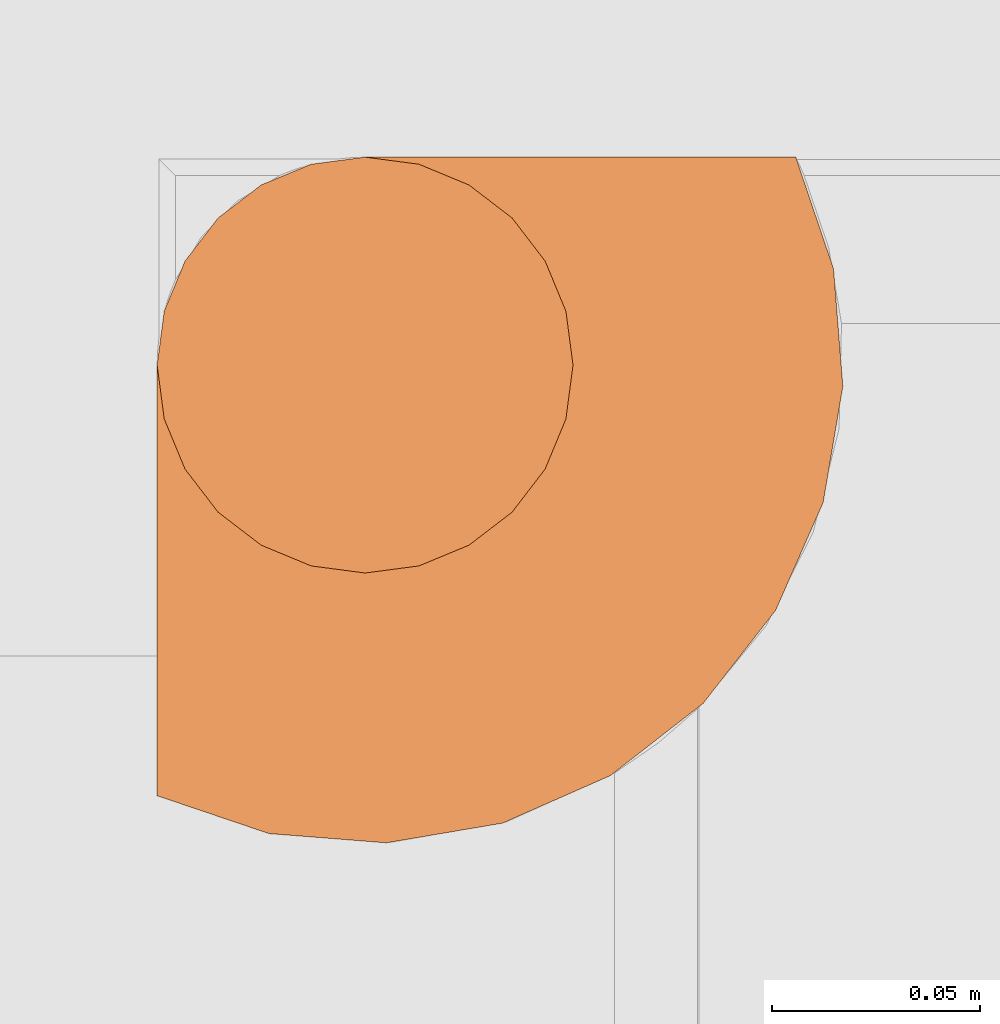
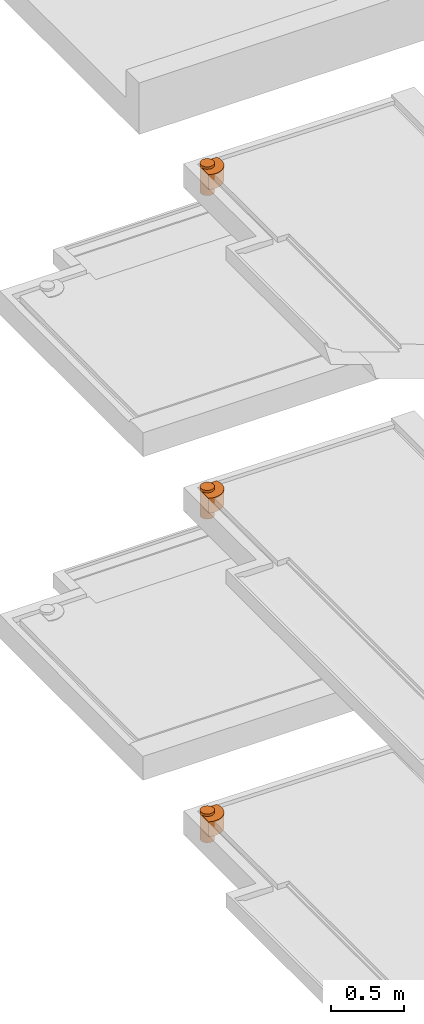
# One storey, part 22 of 31: 3 proxies, 3 elements without a shape of their own.
"""IFC2X3 building model written with IfcOpenShell, lengths in centimetres."""

from ifc_helpers import new_model, entity, si_unit, converted_unit, derived_unit, direction, frame, origin, place, context, subcontext, project, spatial, faceted_brep, source, transform, mapped, material, type_object, type_shapes, element, aggregate, save


model = new_model("IFC2X3")

# Units and contexts
model_context = context("Model", 3, precision=0.001, world=origin(), true_north=direction((6.12303176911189e-17, 1.0)))
body_context = subcontext(model_context, "Body", "Model", "MODEL_VIEW")
ifc_project = project(units=[si_unit("LENGTHUNIT", "METRE", prefix="CENTI"), si_unit("AREAUNIT", "SQUARE_METRE"), si_unit("VOLUMEUNIT", "CUBIC_METRE"), converted_unit("PLANEANGLEUNIT", "DEGREE", entity("IfcRatioMeasure", 0.0174532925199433), si_unit("PLANEANGLEUNIT", "RADIAN"), dimensions=[0, 0, 0, 0, 0, 0, 0]), si_unit("MASSUNIT", "GRAM", prefix="KILO"), derived_unit("MASSDENSITYUNIT", [(si_unit("MASSUNIT", "GRAM", prefix="KILO"), 1), (si_unit("LENGTHUNIT", "METRE"), -3)]), si_unit("TIMEUNIT", "SECOND"), si_unit("FREQUENCYUNIT", "HERTZ"), si_unit("THERMODYNAMICTEMPERATUREUNIT", "DEGREE_CELSIUS"), derived_unit("THERMALTRANSMITTANCEUNIT", [(si_unit("MASSUNIT", "GRAM", prefix="KILO"), 1), (si_unit("THERMODYNAMICTEMPERATUREUNIT", "KELVIN"), -1), (si_unit("TIMEUNIT", "SECOND"), -3)]), derived_unit("VOLUMETRICFLOWRATEUNIT", [(si_unit("LENGTHUNIT", "METRE"), 3), (si_unit("TIMEUNIT", "SECOND"), -1)]), si_unit("ELECTRICCURRENTUNIT", "AMPERE"), si_unit("ELECTRICVOLTAGEUNIT", "VOLT"), si_unit("POWERUNIT", "WATT"), si_unit("FORCEUNIT", "NEWTON"), si_unit("ILLUMINANCEUNIT", "LUX"), si_unit("LUMINOUSFLUXUNIT", "LUMEN"), si_unit("LUMINOUSINTENSITYUNIT", "CANDELA"), derived_unit("USERDEFINED", [(si_unit("MASSUNIT", "GRAM", prefix="KILO"), -1), (si_unit("LENGTHUNIT", "METRE"), -2), (si_unit("TIMEUNIT", "SECOND"), 3), (si_unit("LUMINOUSFLUXUNIT", "LUMEN"), 1)]), derived_unit("LINEARVELOCITYUNIT", [(si_unit("LENGTHUNIT", "METRE"), 1), (si_unit("TIMEUNIT", "SECOND"), -1)]), si_unit("PRESSUREUNIT", "PASCAL"), derived_unit("USERDEFINED", [(si_unit("LENGTHUNIT", "METRE"), -2), (si_unit("MASSUNIT", "GRAM", prefix="KILO"), 1), (si_unit("TIMEUNIT", "SECOND"), -2)])], contexts=[model_context])

# Site, building, storey
site_placement = place(None, origin())
site = spatial("IfcSite", under=ifc_project, at=site_placement, Name="Default", CompositionType="ELEMENT")
building_placement = place(site_placement, origin())
building = spatial("IfcBuilding", under=site, at=building_placement, Name="CAGE 03", CompositionType="ELEMENT")
storey_placement = place(building_placement, frame((0.0, 0.0, -400.0)))
storey = spatial("IfcBuildingStorey", under=building, at=storey_placement, Name="±0.00", CompositionType="ELEMENT", Elevation=-400.0)

# Assembly, proxy
assembly_1_placement = place(storey_placement, origin())
assembly_1 = element("IfcElementAssembly", 1, at=assembly_1_placement, inside=storey, Name="Assemblage Modèles génériques:BALCON TYPE 06", ObjectType="Assemblage Modèles génériques:BALCON TYPE 06", AssemblyPlace="NOTDEFINED", PredefinedType="USERDEFINED")
ifc_material = material(Name="BBGO_Résa")
building_element_proxy_type_1 = type_object("IfcBuildingElementProxyType", Name="Siphon de balcon", PredefinedType="NOTDEFINED", material=ifc_material)
shared_shape_1 = source(origin(), body_context, "Body", "Brep", [
    faceted_brep([(10.3541591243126, 16.4778834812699, 9.69999999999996), (10.3541591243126, 16.4778834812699, 0.0), (9.14825434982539, 15.9783813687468, 0.0), (9.14825434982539, 15.9783813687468, 9.69999999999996), (10.3541591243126, 16.4778834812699, 22.0), (9.14825434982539, 15.9783813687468, 22.0), (9.14825434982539, 15.9783813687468, 24.0), (10.3541591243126, 16.4778834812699, 24.0), (8.11272044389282, 15.1837882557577, 0.0), (8.11272044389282, 15.1837882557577, 9.69999999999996), (8.11272044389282, 15.1837882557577, 22.0), (8.11272044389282, 15.1837882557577, 24.0), (7.31812733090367, 14.1482543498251, 9.69999999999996), (7.31812733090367, 14.1482543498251, 0.0), (6.81862521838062, 12.9423495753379, 0.0), (6.81862521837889, 12.942349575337, 9.69999999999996), (7.31812733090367, 14.1482543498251, 22.0), (6.81862521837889, 12.942349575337, 22.0), (6.81862521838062, 12.9423495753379, 24.0), (7.31812733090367, 14.1482543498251, 24.0), (6.64825434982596, 11.6482543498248, 0.0), (6.64825434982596, 11.6482543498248, 9.69999999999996), (6.64825434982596, 11.6482543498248, 24.0), (6.64825434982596, 11.6482543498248, 22.0), (11.6482543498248, 16.6482543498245, 9.69999999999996), (11.6482543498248, 16.6482543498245, 0.0), (11.6482543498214, 16.6482543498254, 22.0), (11.6482543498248, 16.6482543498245, 24.0), (6.81862521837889, 10.3541591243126, 9.69999999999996), (6.81862521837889, 10.3541591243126, 0.0), (7.31812733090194, 9.14825434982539, 0.0), (7.31812733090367, 9.14825434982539, 9.69999999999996), (6.81862521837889, 10.3541591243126, 22.0), (7.31812733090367, 9.14825434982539, 22.0), (7.31812733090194, 9.14825434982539, 24.0), (6.81862521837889, 10.3541591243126, 24.0), (8.11272044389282, 8.11272044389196, 0.0), (8.11272044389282, 8.11272044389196, 9.69999999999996), (8.11272044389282, 8.11272044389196, 22.0), (8.11272044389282, 8.11272044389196, 24.0), (9.14825434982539, 7.31812733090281, 9.69999999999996), (9.14825434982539, 7.31812733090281, 0.0), (10.3541591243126, 6.81862521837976, 0.0), (10.3541591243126, 6.81862521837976, 9.69999999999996), (9.14825434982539, 7.31812733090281, 22.0), (10.3541591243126, 6.81862521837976, 22.0), (10.3541591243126, 6.81862521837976, 24.0), (9.14825434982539, 7.31812733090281, 24.0), (11.6482543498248, 6.64825434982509, 0.0), (11.6482543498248, 6.64825434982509, 9.69999999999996), (11.6482543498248, 6.64825434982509, 22.0), (11.6482543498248, 6.64825434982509, 24.0), (16.4778834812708, 10.3541591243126, 22.0), (15.978381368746, 9.14825434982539, 22.0), (15.1837882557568, 8.11272044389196, 22.0), (14.1482543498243, 7.31812733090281, 22.0), (12.942349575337, 6.81862521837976, 22.0), (1.29209676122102, 16.6482543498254, 22.0), (0.383832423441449, 13.964026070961, 22.0), (0.15952722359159, 11.1391875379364, 22.0), (0.632800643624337, 8.34525879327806, 22.0), (1.77491621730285, 5.75188308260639, 22.0), (3.51652636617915, 3.51652636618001, 22.0), (5.75188308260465, 1.77491621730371, 22.0), (8.34525879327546, 0.632800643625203, 22.0), (11.1391875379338, 0.159527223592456, 22.0), (13.9640260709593, 0.383832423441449, 22.0), (16.6482543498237, 1.29209676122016, 22.0), (16.6482543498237, 11.6482543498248, 22.0), (12.942349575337, 6.81862521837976, 9.69999999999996), (14.1482543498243, 7.31812733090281, 9.69999999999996), (15.1837882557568, 8.11272044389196, 9.69999999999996), (15.978381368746, 9.14825434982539, 9.69999999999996), (16.4778834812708, 10.3541591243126, 9.69999999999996), (16.6482543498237, 11.6482543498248, 9.69999999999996), (16.6482543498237, 1.29209676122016, 9.69999999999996), (13.9640260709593, 0.383832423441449, 9.69999999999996), (11.1391875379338, 0.159527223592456, 9.69999999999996), (8.34525879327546, 0.632800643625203, 9.69999999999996), (5.75188308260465, 1.77491621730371, 9.69999999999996), (3.51652636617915, 3.51652636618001, 9.69999999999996), (1.77491621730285, 5.75188308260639, 9.69999999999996), (0.632800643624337, 8.34525879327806, 9.69999999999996), (0.15952722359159, 11.1391875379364, 9.69999999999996), (0.383832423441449, 13.964026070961, 9.69999999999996), (1.29209676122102, 16.6482543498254, 9.69999999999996), (1.29209676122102, 16.6482543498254, 21.5299497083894), (16.6482543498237, 1.29209676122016, 21.3763717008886), (12.942349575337, 6.81862521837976, 24.0), (14.1482543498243, 7.31812733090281, 24.0), (15.1837882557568, 8.11272044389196, 24.0), (15.978381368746, 9.14825434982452, 24.0), (16.477883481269, 10.3541591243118, 24.0), (16.6482543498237, 11.6482543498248, 24.0), (16.4778834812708, 12.942349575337, 24.0), (15.9783813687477, 14.1482543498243, 24.0), (15.1837882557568, 15.1837882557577, 24.0), (14.1482543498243, 15.9783813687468, 24.0), (12.942349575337, 16.4778834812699, 24.0), (14.1482543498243, 7.31812733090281, 0.0), (12.942349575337, 6.81862521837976, 0.0), (12.942349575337, 16.4778834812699, 0.0), (14.1482543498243, 15.9783813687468, 0.0), (15.1837882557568, 15.1837882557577, 0.0), (15.9783813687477, 14.1482543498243, 0.0), (16.4778834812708, 12.942349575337, 0.0), (16.6482543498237, 11.6482543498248, 0.0), (16.477883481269, 10.3541591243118, 0.0), (15.978381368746, 9.14825434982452, 0.0), (15.1837882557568, 8.11272044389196, 0.0)], [[[0, 1, 2, 3]], [[4, 5, 6, 7]], [[8, 9, 3, 2]], [[5, 10, 11, 6]], [[12, 13, 14, 15]], [[16, 17, 18, 19]], [[8, 13, 12, 9]], [[10, 16, 19, 11]], [[15, 14, 20, 21]], [[22, 18, 17, 23]], [[1, 0, 24, 25]], [[26, 4, 7, 27]], [[28, 29, 30, 31]], [[32, 33, 34, 35]], [[36, 37, 31, 30]], [[33, 38, 39, 34]], [[40, 41, 42, 43]], [[44, 45, 46, 47]], [[36, 41, 40, 37]], [[38, 44, 47, 39]], [[43, 42, 48, 49]], [[45, 50, 51, 46]], [[29, 28, 21, 20]], [[32, 35, 22, 23]], [[52, 53, 54, 55, 56, 50, 45, 44, 38, 33, 32, 23, 17, 16, 10, 5, 4, 26, 57, 58, 59, 60, 61, 62, 63, 64, 65, 66, 67, 68]], [[21, 28, 31, 37, 40, 43, 49, 69, 70, 71, 72, 73, 74, 75, 76, 77, 78, 79, 80, 81, 82, 83, 84, 85, 24, 0, 3, 9, 12, 15]], [[57, 26, 24, 85, 86]], [[86, 85, 84, 58, 57]], [[83, 59, 58, 84]], [[60, 82, 81, 61]], [[83, 82, 60, 59]], [[61, 81, 80, 62]], [[78, 64, 63, 79]], [[77, 65, 64, 78]], [[76, 75, 87, 67, 66]], [[77, 76, 66, 65]], [[79, 63, 62, 80]], [[68, 67, 87, 75, 74]], [[22, 35, 34, 39, 47, 46, 51, 88, 89, 90, 91, 92, 93, 94, 95, 96, 97, 98, 27, 7, 6, 11, 19, 18]], [[99, 100, 48, 42, 41, 36, 30, 29, 20, 14, 13, 8, 2, 1, 25, 101, 102, 103, 104, 105, 106, 107, 108, 109]], [[48, 100, 69, 49]], [[51, 50, 56, 88]], [[99, 70, 69, 100]], [[56, 55, 89, 88]], [[109, 108, 72, 71]], [[54, 53, 91, 90]], [[109, 71, 70, 99]], [[54, 90, 89, 55]], [[108, 107, 73, 72]], [[91, 53, 52, 92]], [[74, 106, 105, 94, 93, 68]], [[107, 106, 74, 73]], [[52, 68, 93, 92]], [[94, 105, 104, 95]], [[101, 25, 24, 26, 27, 98]], [[96, 103, 102, 97]], [[101, 98, 97, 102]], [[95, 104, 103, 96]]]),
])
type_shapes(building_element_proxy_type_1, [shared_shape_1])
proxy_1_placement = place(assembly_1_placement, frame((4703.01407449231, 4049.51241172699, 988.0), z_axis=(0.0, 0.0, 1.0), x_axis=(0.0, 1.0, 0.0)))
proxy_1 = element("IfcBuildingElementProxy", 2, at=proxy_1_placement, type_object=building_element_proxy_type_1, material=ifc_material, Name="Siphon de balcon20:Siphon de balcon", ObjectType="Siphon de balcon", context=body_context, shape_type="MappedRepresentation", body=[
    mapped(shared_shape_1, transform((0.0, 0.0, 0.0), scale=1.0)),
])
aggregate(assembly_1, [proxy_1])

assembly_2_placement = place(storey_placement, origin())
assembly_2 = element("IfcElementAssembly", 3, at=assembly_2_placement, inside=storey, Name="Assemblage Modèles génériques:BALCON TYPE 06", ObjectType="Assemblage Modèles génériques:BALCON TYPE 06", AssemblyPlace="NOTDEFINED", PredefinedType="USERDEFINED")
building_element_proxy_type_2 = type_object("IfcBuildingElementProxyType", Name="Siphon de balcon", PredefinedType="NOTDEFINED", material=ifc_material)
shared_shape_2 = source(origin(), body_context, "Body", "Brep", [
    faceted_brep([(10.3541591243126, 16.4778834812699, 9.69999999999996), (10.3541591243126, 16.4778834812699, 0.0), (9.14825434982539, 15.9783813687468, 0.0), (9.14825434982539, 15.9783813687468, 9.69999999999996), (10.3541591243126, 16.4778834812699, 22.0), (9.14825434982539, 15.9783813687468, 22.0), (9.14825434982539, 15.9783813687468, 24.0), (10.3541591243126, 16.4778834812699, 24.0), (8.11272044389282, 15.1837882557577, 0.0), (8.11272044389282, 15.1837882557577, 9.69999999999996), (8.11272044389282, 15.1837882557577, 22.0), (8.11272044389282, 15.1837882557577, 24.0), (7.31812733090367, 14.1482543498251, 9.69999999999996), (7.31812733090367, 14.1482543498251, 0.0), (6.81862521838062, 12.9423495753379, 0.0), (6.81862521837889, 12.942349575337, 9.69999999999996), (7.31812733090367, 14.1482543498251, 22.0), (6.81862521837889, 12.942349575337, 22.0), (6.81862521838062, 12.9423495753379, 24.0), (7.31812733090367, 14.1482543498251, 24.0), (6.64825434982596, 11.6482543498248, 0.0), (6.64825434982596, 11.6482543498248, 9.69999999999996), (6.64825434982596, 11.6482543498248, 24.0), (6.64825434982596, 11.6482543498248, 22.0), (11.6482543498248, 16.6482543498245, 9.69999999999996), (11.6482543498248, 16.6482543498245, 0.0), (11.6482543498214, 16.6482543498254, 22.0), (11.6482543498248, 16.6482543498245, 24.0), (6.81862521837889, 10.3541591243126, 9.69999999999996), (6.81862521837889, 10.3541591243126, 0.0), (7.31812733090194, 9.14825434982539, 0.0), (7.31812733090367, 9.14825434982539, 9.69999999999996), (6.81862521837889, 10.3541591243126, 22.0), (7.31812733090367, 9.14825434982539, 22.0), (7.31812733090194, 9.14825434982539, 24.0), (6.81862521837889, 10.3541591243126, 24.0), (8.11272044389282, 8.11272044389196, 0.0), (8.11272044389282, 8.11272044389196, 9.69999999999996), (8.11272044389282, 8.11272044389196, 22.0), (8.11272044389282, 8.11272044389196, 24.0), (9.14825434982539, 7.31812733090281, 9.69999999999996), (9.14825434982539, 7.31812733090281, 0.0), (10.3541591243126, 6.81862521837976, 0.0), (10.3541591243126, 6.81862521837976, 9.69999999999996), (9.14825434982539, 7.31812733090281, 22.0), (10.3541591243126, 6.81862521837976, 22.0), (10.3541591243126, 6.81862521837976, 24.0), (9.14825434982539, 7.31812733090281, 24.0), (11.6482543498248, 6.64825434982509, 0.0), (11.6482543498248, 6.64825434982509, 9.69999999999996), (11.6482543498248, 6.64825434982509, 22.0), (11.6482543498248, 6.64825434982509, 24.0), (16.4778834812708, 10.3541591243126, 22.0), (15.978381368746, 9.14825434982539, 22.0), (15.1837882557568, 8.11272044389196, 22.0), (14.1482543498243, 7.31812733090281, 22.0), (12.942349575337, 6.81862521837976, 22.0), (1.29209676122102, 16.6482543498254, 22.0), (0.383832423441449, 13.964026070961, 22.0), (0.15952722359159, 11.1391875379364, 22.0), (0.632800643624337, 8.34525879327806, 22.0), (1.77491621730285, 5.75188308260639, 22.0), (3.51652636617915, 3.51652636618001, 22.0), (5.75188308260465, 1.77491621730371, 22.0), (8.34525879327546, 0.632800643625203, 22.0), (11.1391875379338, 0.159527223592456, 22.0), (13.9640260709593, 0.383832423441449, 22.0), (16.6482543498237, 1.29209676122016, 22.0), (16.6482543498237, 11.6482543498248, 22.0), (12.942349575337, 6.81862521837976, 9.69999999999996), (14.1482543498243, 7.31812733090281, 9.69999999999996), (15.1837882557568, 8.11272044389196, 9.69999999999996), (15.978381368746, 9.14825434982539, 9.69999999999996), (16.4778834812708, 10.3541591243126, 9.69999999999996), (16.6482543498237, 11.6482543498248, 9.69999999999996), (16.6482543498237, 1.29209676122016, 9.69999999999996), (13.9640260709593, 0.383832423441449, 9.69999999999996), (11.1391875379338, 0.159527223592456, 9.69999999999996), (8.34525879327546, 0.632800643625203, 9.69999999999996), (5.75188308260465, 1.77491621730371, 9.69999999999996), (3.51652636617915, 3.51652636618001, 9.69999999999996), (1.77491621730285, 5.75188308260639, 9.69999999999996), (0.632800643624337, 8.34525879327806, 9.69999999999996), (0.15952722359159, 11.1391875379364, 9.69999999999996), (0.383832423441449, 13.964026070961, 9.69999999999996), (1.29209676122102, 16.6482543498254, 9.69999999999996), (1.29209676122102, 16.6482543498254, 21.5299497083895), (16.6482543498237, 1.29209676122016, 21.3763717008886), (12.942349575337, 6.81862521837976, 24.0), (14.1482543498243, 7.31812733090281, 24.0), (15.1837882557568, 8.11272044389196, 24.0), (15.978381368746, 9.14825434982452, 24.0), (16.477883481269, 10.3541591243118, 24.0), (16.6482543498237, 11.6482543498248, 24.0), (16.4778834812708, 12.942349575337, 24.0), (15.9783813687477, 14.1482543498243, 24.0), (15.1837882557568, 15.1837882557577, 24.0), (14.1482543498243, 15.9783813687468, 24.0), (12.942349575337, 16.4778834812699, 24.0), (14.1482543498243, 7.31812733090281, 0.0), (12.942349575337, 6.81862521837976, 0.0), (12.942349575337, 16.4778834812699, 0.0), (14.1482543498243, 15.9783813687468, 0.0), (15.1837882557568, 15.1837882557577, 0.0), (15.9783813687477, 14.1482543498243, 0.0), (16.4778834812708, 12.942349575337, 0.0), (16.6482543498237, 11.6482543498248, 0.0), (16.477883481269, 10.3541591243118, 0.0), (15.978381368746, 9.14825434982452, 0.0), (15.1837882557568, 8.11272044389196, 0.0)], [[[0, 1, 2, 3]], [[4, 5, 6, 7]], [[8, 9, 3, 2]], [[5, 10, 11, 6]], [[12, 13, 14, 15]], [[16, 17, 18, 19]], [[8, 13, 12, 9]], [[10, 16, 19, 11]], [[15, 14, 20, 21]], [[22, 18, 17, 23]], [[1, 0, 24, 25]], [[26, 4, 7, 27]], [[28, 29, 30, 31]], [[32, 33, 34, 35]], [[36, 37, 31, 30]], [[33, 38, 39, 34]], [[40, 41, 42, 43]], [[44, 45, 46, 47]], [[36, 41, 40, 37]], [[38, 44, 47, 39]], [[43, 42, 48, 49]], [[45, 50, 51, 46]], [[29, 28, 21, 20]], [[32, 35, 22, 23]], [[52, 53, 54, 55, 56, 50, 45, 44, 38, 33, 32, 23, 17, 16, 10, 5, 4, 26, 57, 58, 59, 60, 61, 62, 63, 64, 65, 66, 67, 68]], [[21, 28, 31, 37, 40, 43, 49, 69, 70, 71, 72, 73, 74, 75, 76, 77, 78, 79, 80, 81, 82, 83, 84, 85, 24, 0, 3, 9, 12, 15]], [[57, 26, 24, 85, 86]], [[86, 85, 84, 58, 57]], [[83, 59, 58, 84]], [[60, 82, 81, 61]], [[83, 82, 60, 59]], [[61, 81, 80, 62]], [[78, 64, 63, 79]], [[77, 65, 64, 78]], [[76, 75, 87, 67, 66]], [[77, 76, 66, 65]], [[79, 63, 62, 80]], [[68, 67, 87, 75, 74]], [[22, 35, 34, 39, 47, 46, 51, 88, 89, 90, 91, 92, 93, 94, 95, 96, 97, 98, 27, 7, 6, 11, 19, 18]], [[99, 100, 48, 42, 41, 36, 30, 29, 20, 14, 13, 8, 2, 1, 25, 101, 102, 103, 104, 105, 106, 107, 108, 109]], [[48, 100, 69, 49]], [[51, 50, 56, 88]], [[99, 70, 69, 100]], [[56, 55, 89, 88]], [[109, 108, 72, 71]], [[54, 53, 91, 90]], [[109, 71, 70, 99]], [[54, 90, 89, 55]], [[108, 107, 73, 72]], [[91, 53, 52, 92]], [[74, 106, 105, 94, 93, 68]], [[107, 106, 74, 73]], [[52, 68, 93, 92]], [[94, 105, 104, 95]], [[101, 25, 24, 26, 27, 98]], [[96, 103, 102, 97]], [[101, 98, 97, 102]], [[95, 104, 103, 96]]]),
])
type_shapes(building_element_proxy_type_2, [shared_shape_2])
proxy_2_placement = place(assembly_2_placement, frame((4703.01407449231, 4049.51241172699, 1258.0), z_axis=(0.0, 0.0, 1.0), x_axis=(0.0, 1.0, 0.0)))
proxy_2 = element("IfcBuildingElementProxy", 4, at=proxy_2_placement, type_object=building_element_proxy_type_2, material=ifc_material, Name="Siphon de balcon21:Siphon de balcon", ObjectType="Siphon de balcon", context=body_context, shape_type="MappedRepresentation", body=[
    mapped(shared_shape_2, transform((0.0, 0.0, 0.0), scale=1.0)),
])
aggregate(assembly_2, [proxy_2])

assembly_3_placement = place(storey_placement, origin())
assembly_3 = element("IfcElementAssembly", 5, at=assembly_3_placement, inside=storey, Name="Assemblage Modèles génériques:BALCON TYPE 06", ObjectType="Assemblage Modèles génériques:BALCON TYPE 06", AssemblyPlace="NOTDEFINED", PredefinedType="USERDEFINED")
building_element_proxy_type_3 = type_object("IfcBuildingElementProxyType", Name="Siphon de balcon", PredefinedType="NOTDEFINED", material=ifc_material)
shared_shape_3 = source(origin(), body_context, "Body", "Brep", [
    faceted_brep([(10.3541591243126, 16.4778834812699, 9.69999999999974), (10.3541591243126, 16.4778834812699, 0.0), (9.14825434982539, 15.9783813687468, 0.0), (9.14825434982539, 15.9783813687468, 9.69999999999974), (10.3541591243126, 16.4778834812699, 22.0), (9.14825434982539, 15.9783813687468, 22.0), (9.14825434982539, 15.9783813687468, 24.0), (10.3541591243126, 16.4778834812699, 24.0), (8.11272044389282, 15.1837882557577, 0.0), (8.11272044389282, 15.1837882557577, 9.69999999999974), (8.11272044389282, 15.1837882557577, 22.0), (8.11272044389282, 15.1837882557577, 24.0), (7.31812733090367, 14.1482543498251, 9.69999999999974), (7.31812733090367, 14.1482543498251, 0.0), (6.81862521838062, 12.9423495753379, 0.0), (6.81862521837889, 12.942349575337, 9.69999999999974), (7.31812733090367, 14.1482543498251, 22.0), (6.81862521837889, 12.942349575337, 22.0), (6.81862521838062, 12.9423495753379, 24.0), (7.31812733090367, 14.1482543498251, 24.0), (6.64825434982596, 11.6482543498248, 0.0), (6.64825434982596, 11.6482543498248, 9.69999999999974), (6.64825434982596, 11.6482543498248, 24.0), (6.64825434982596, 11.6482543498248, 22.0), (11.6482543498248, 16.6482543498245, 9.69999999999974), (11.6482543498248, 16.6482543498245, 0.0), (11.6482543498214, 16.6482543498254, 22.0), (11.6482543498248, 16.6482543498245, 24.0), (6.81862521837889, 10.3541591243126, 9.69999999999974), (6.81862521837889, 10.3541591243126, 0.0), (7.31812733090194, 9.14825434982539, 0.0), (7.31812733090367, 9.14825434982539, 9.69999999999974), (6.81862521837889, 10.3541591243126, 22.0), (7.31812733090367, 9.14825434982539, 22.0), (7.31812733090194, 9.14825434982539, 24.0), (6.81862521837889, 10.3541591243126, 24.0), (8.11272044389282, 8.11272044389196, 0.0), (8.11272044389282, 8.11272044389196, 9.69999999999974), (8.11272044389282, 8.11272044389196, 22.0), (8.11272044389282, 8.11272044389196, 24.0), (9.14825434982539, 7.31812733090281, 9.69999999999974), (9.14825434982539, 7.31812733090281, 0.0), (10.3541591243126, 6.81862521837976, 0.0), (10.3541591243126, 6.81862521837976, 9.69999999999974), (9.14825434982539, 7.31812733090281, 22.0), (10.3541591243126, 6.81862521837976, 22.0), (10.3541591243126, 6.81862521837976, 24.0), (9.14825434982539, 7.31812733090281, 24.0), (11.6482543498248, 6.64825434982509, 0.0), (11.6482543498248, 6.64825434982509, 9.69999999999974), (11.6482543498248, 6.64825434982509, 22.0), (11.6482543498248, 6.64825434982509, 24.0), (16.4778834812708, 10.3541591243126, 22.0), (15.978381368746, 9.14825434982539, 22.0), (15.1837882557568, 8.11272044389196, 22.0), (14.1482543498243, 7.31812733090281, 22.0), (12.942349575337, 6.81862521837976, 22.0), (1.29209676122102, 16.6482543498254, 22.0), (0.383832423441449, 13.964026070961, 22.0), (0.15952722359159, 11.1391875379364, 22.0), (0.632800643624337, 8.34525879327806, 22.0), (1.77491621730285, 5.75188308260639, 22.0), (3.51652636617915, 3.51652636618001, 22.0), (5.75188308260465, 1.77491621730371, 22.0), (8.34525879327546, 0.632800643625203, 22.0), (11.1391875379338, 0.159527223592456, 22.0), (13.9640260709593, 0.383832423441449, 22.0), (16.6482543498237, 1.29209676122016, 22.0), (16.6482543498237, 11.6482543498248, 22.0), (12.942349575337, 6.81862521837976, 9.69999999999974), (14.1482543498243, 7.31812733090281, 9.69999999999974), (15.1837882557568, 8.11272044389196, 9.69999999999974), (15.978381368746, 9.14825434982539, 9.69999999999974), (16.4778834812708, 10.3541591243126, 9.69999999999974), (16.6482543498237, 11.6482543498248, 9.69999999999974), (16.6482543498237, 1.29209676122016, 9.69999999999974), (13.9640260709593, 0.383832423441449, 9.69999999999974), (11.1391875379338, 0.159527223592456, 9.69999999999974), (8.34525879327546, 0.632800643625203, 9.69999999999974), (5.75188308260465, 1.77491621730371, 9.69999999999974), (3.51652636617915, 3.51652636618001, 9.69999999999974), (1.77491621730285, 5.75188308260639, 9.69999999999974), (0.632800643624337, 8.34525879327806, 9.69999999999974), (0.15952722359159, 11.1391875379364, 9.69999999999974), (0.383832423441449, 13.964026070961, 9.69999999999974), (1.29209676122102, 16.6482543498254, 9.69999999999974), (1.29209676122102, 16.6482543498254, 21.5299497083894), (16.6482543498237, 1.29209676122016, 21.3763717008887), (12.942349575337, 6.81862521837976, 24.0), (14.1482543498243, 7.31812733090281, 24.0), (15.1837882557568, 8.11272044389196, 24.0), (15.978381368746, 9.14825434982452, 24.0), (16.477883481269, 10.3541591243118, 24.0), (16.6482543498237, 11.6482543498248, 24.0), (16.4778834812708, 12.942349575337, 24.0), (15.9783813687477, 14.1482543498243, 24.0), (15.1837882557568, 15.1837882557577, 24.0), (14.1482543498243, 15.9783813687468, 24.0), (12.942349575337, 16.4778834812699, 24.0), (14.1482543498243, 7.31812733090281, 0.0), (12.942349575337, 6.81862521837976, 0.0), (12.942349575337, 16.4778834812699, 0.0), (14.1482543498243, 15.9783813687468, 0.0), (15.1837882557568, 15.1837882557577, 0.0), (15.9783813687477, 14.1482543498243, 0.0), (16.4778834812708, 12.942349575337, 0.0), (16.6482543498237, 11.6482543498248, 0.0), (16.477883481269, 10.3541591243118, 0.0), (15.978381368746, 9.14825434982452, 0.0), (15.1837882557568, 8.11272044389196, 0.0)], [[[0, 1, 2, 3]], [[4, 5, 6, 7]], [[8, 9, 3, 2]], [[5, 10, 11, 6]], [[12, 13, 14, 15]], [[16, 17, 18, 19]], [[8, 13, 12, 9]], [[10, 16, 19, 11]], [[15, 14, 20, 21]], [[22, 18, 17, 23]], [[1, 0, 24, 25]], [[26, 4, 7, 27]], [[28, 29, 30, 31]], [[32, 33, 34, 35]], [[36, 37, 31, 30]], [[33, 38, 39, 34]], [[40, 41, 42, 43]], [[44, 45, 46, 47]], [[36, 41, 40, 37]], [[38, 44, 47, 39]], [[43, 42, 48, 49]], [[45, 50, 51, 46]], [[29, 28, 21, 20]], [[32, 35, 22, 23]], [[52, 53, 54, 55, 56, 50, 45, 44, 38, 33, 32, 23, 17, 16, 10, 5, 4, 26, 57, 58, 59, 60, 61, 62, 63, 64, 65, 66, 67, 68]], [[21, 28, 31, 37, 40, 43, 49, 69, 70, 71, 72, 73, 74, 75, 76, 77, 78, 79, 80, 81, 82, 83, 84, 85, 24, 0, 3, 9, 12, 15]], [[57, 26, 24, 85, 86]], [[86, 85, 84, 58, 57]], [[83, 59, 58, 84]], [[60, 82, 81, 61]], [[83, 82, 60, 59]], [[61, 81, 80, 62]], [[78, 64, 63, 79]], [[77, 65, 64, 78]], [[76, 75, 87, 67, 66]], [[77, 76, 66, 65]], [[79, 63, 62, 80]], [[68, 67, 87, 75, 74]], [[22, 35, 34, 39, 47, 46, 51, 88, 89, 90, 91, 92, 93, 94, 95, 96, 97, 98, 27, 7, 6, 11, 19, 18]], [[99, 100, 48, 42, 41, 36, 30, 29, 20, 14, 13, 8, 2, 1, 25, 101, 102, 103, 104, 105, 106, 107, 108, 109]], [[48, 100, 69, 49]], [[51, 50, 56, 88]], [[99, 70, 69, 100]], [[56, 55, 89, 88]], [[109, 108, 72, 71]], [[54, 53, 91, 90]], [[109, 71, 70, 99]], [[54, 90, 89, 55]], [[108, 107, 73, 72]], [[91, 53, 52, 92]], [[74, 106, 105, 94, 93, 68]], [[107, 106, 74, 73]], [[52, 68, 93, 92]], [[94, 105, 104, 95]], [[101, 25, 24, 26, 27, 98]], [[96, 103, 102, 97]], [[101, 98, 97, 102]], [[95, 104, 103, 96]]]),
])
type_shapes(building_element_proxy_type_3, [shared_shape_3])
proxy_3_placement = place(assembly_3_placement, frame((4703.01407449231, 4049.51241172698, 1528.0), z_axis=(0.0, 0.0, 1.0), x_axis=(0.0, 1.0, 0.0)))
proxy_3 = element("IfcBuildingElementProxy", 6, at=proxy_3_placement, type_object=building_element_proxy_type_3, material=ifc_material, Name="Siphon de balcon22:Siphon de balcon", ObjectType="Siphon de balcon", context=body_context, shape_type="MappedRepresentation", body=[
    mapped(shared_shape_3, transform((0.0, 0.0, 0.0), scale=1.0)),
])
aggregate(assembly_3, [proxy_3])

save(model, "model.ifc")
